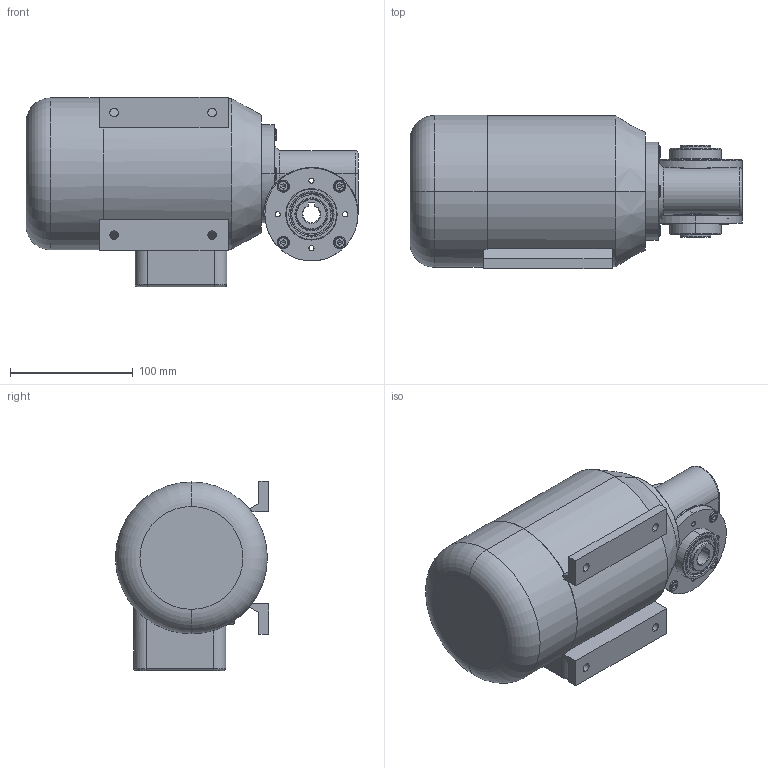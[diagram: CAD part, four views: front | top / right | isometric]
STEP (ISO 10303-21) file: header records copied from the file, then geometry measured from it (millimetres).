
FILE_DESCRIPTION (( 'STEP AP214' ), '1' );
FILE_NAME ('SN3BH_120W_180W_250W_D.STEP', '2021-03-16T12:45:17', ( '' ), ( '' ), 'SwSTEP 2.0', 'SolidWorks 2019', '' );
FILE_SCHEMA (( 'AUTOMOTIVE_DESIGN' ));
Length unit declared in the file: millimetre
Products named in the file (1): SN3BH_120W_180W_250W_D
Bounding box: 271 x 125 x 154.5 mm (x, y, z)
Surface area: 158277.8 mm2 (no closed solid volume)
Topology: 0 solids, 17 shells, 288 faces, 811 edges, 521 vertices
Faces by surface type: cylinder 107, plane 96, cone 66, torus 13, bspline 6
Entity records: 12973 total; most frequent: CARTESIAN_POINT 2283, DIRECTION 1692, ORIENTED_EDGE 1389, EDGE_CURVE 795, AXIS2_PLACEMENT_3D 654, VERTEX_POINT 521, LINE 384, VECTOR 384
